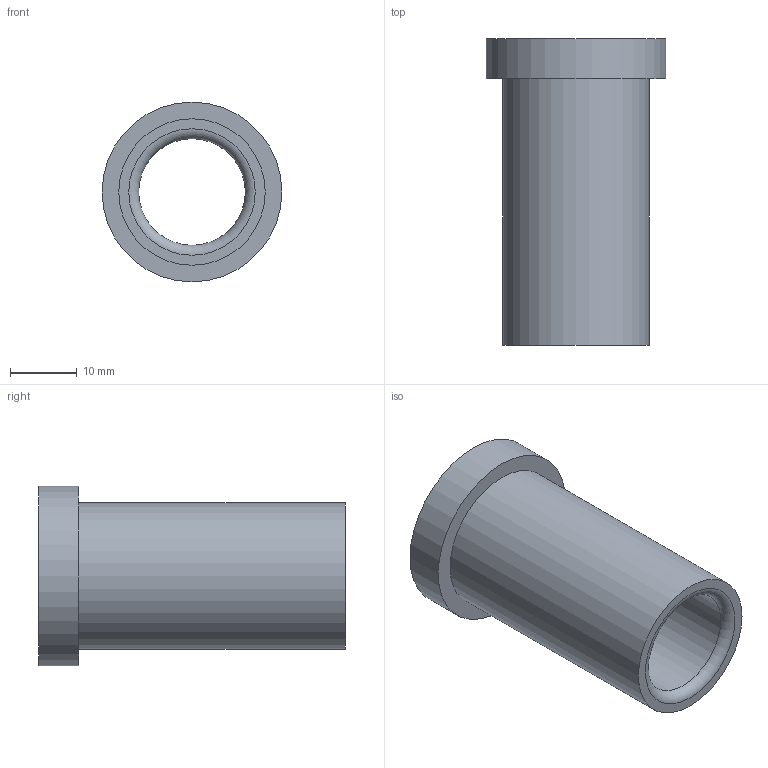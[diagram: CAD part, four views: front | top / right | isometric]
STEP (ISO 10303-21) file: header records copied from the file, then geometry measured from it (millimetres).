
FILE_DESCRIPTION(/* description */ ('STEP AP214'),/* implementation_level */ '2;1');
FILE_NAME(/* name */ '03_12_17845',/* time_stamp */ '2023-06-15T11:35:28+02:00',/* author */ ('License CC BY-ND 4.0'),/* organization */ ('CADENAS'),/* preprocessor_version */ 'ST-DEVELOPER v19.3',/* originating_system */ 'PARTsolutions',/* authorisation */ ' ');
FILE_SCHEMA (('AUTOMOTIVE_DESIGN {1 0 10303 214 3 1 1}'));
Length unit declared in the file: millimetre
Products named in the file (1): VA_Bushing_17845
Bounding box: 27 x 46 x 27 mm (x, y, z)
Volume: 9199 mm3; surface area: 6282.1 mm2
Topology: 1 solids, 1 shells, 10 faces, 16 edges, 10 vertices
Faces by surface type: cylinder 4, plane 4, torus 2
Full cylindrical faces by diameter (mm): 16 x1, 16.6 x1, 22 x1, 27 x1
Entity records: 302 total; most frequent: DIRECTION 42, CARTESIAN_POINT 31, AXIS2_PLACEMENT_3D 21, ORIENTED_EDGE 20, EDGE_LOOP 20, FACE_BOUND 20, EDGE_CURVE 10, VERTEX_POINT 10
